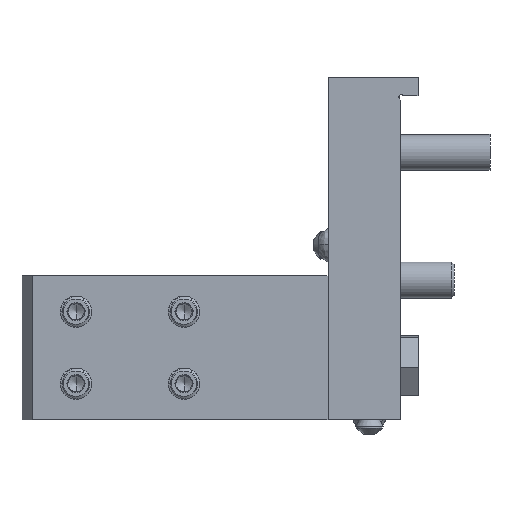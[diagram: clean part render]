
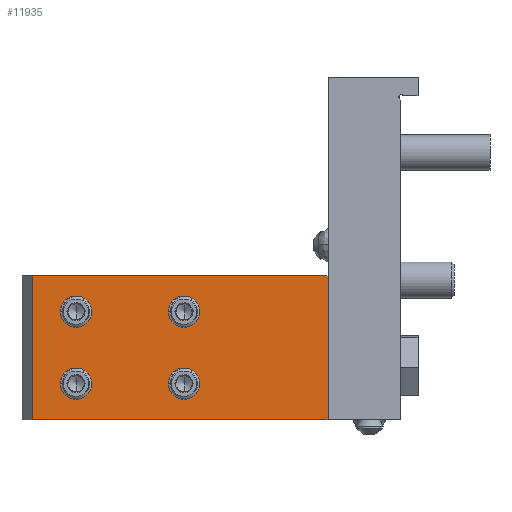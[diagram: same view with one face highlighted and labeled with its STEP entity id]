
A CAD part, left-side view. The second image highlights one B-rep face of the part: STEP entity #11935.
In plain terms, the highlighted planar face has unit normal (1, 0, 0).
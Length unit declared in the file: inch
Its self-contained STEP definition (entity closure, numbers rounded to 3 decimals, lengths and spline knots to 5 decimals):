
#204 = CARTESIAN_POINT ( 'NONE',  ( -1., 0., 1.5 ) ) ;
#288 = FACE_BOUND ( 'NONE', #6733, .T. ) ;
#394 = FACE_OUTER_BOUND ( 'NONE', #5787, .T. ) ;
#461 = CARTESIAN_POINT ( 'NONE',  ( -1., 0., 1.28125 ) ) ;
#559 = DIRECTION ( 'NONE',  ( 0., 0., -1. ) ) ;
#1459 = CIRCLE ( 'NONE', #20564, 0.21875 ) ;
#1542 = ORIENTED_EDGE ( 'NONE', *, *, #21982, .T. ) ;
#1548 = AXIS2_PLACEMENT_3D ( 'NONE', #18318, #7866, #6012 ) ;
#1566 = DIRECTION ( 'NONE',  ( -1., 0., 0. ) ) ;
#1568 = VECTOR ( 'NONE', #16628, 39.37008 ) ;
#1782 = AXIS2_PLACEMENT_3D ( 'NONE', #8065, #2992, #6332 ) ;
#1871 = DIRECTION ( 'NONE',  ( 0., -1., 0. ) ) ;
#2691 = CARTESIAN_POINT ( 'NONE',  ( -1., -1.5, 0.71875 ) ) ;
#2741 = DIRECTION ( 'NONE',  ( -1., 0., 0. ) ) ;
#2837 = DIRECTION ( 'NONE',  ( -1., 0., 0. ) ) ;
#2883 = CARTESIAN_POINT ( 'NONE',  ( -1., -1.5, 0.28125 ) ) ;
#2992 = DIRECTION ( 'NONE',  ( -1., 0., 0. ) ) ;
#3351 = AXIS2_PLACEMENT_3D ( 'NONE', #16578, #5870, #16348 ) ;
#3633 = EDGE_CURVE ( 'NONE', #12113, #8937, #1459, .T. ) ;
#3712 = CARTESIAN_POINT ( 'NONE',  ( -1., 0., 0.5 ) ) ;
#3834 = CIRCLE ( 'NONE', #16676, 0.21875 ) ;
#3911 = ORIENTED_EDGE ( 'NONE', *, *, #9483, .T. ) ;
#3931 = DIRECTION ( 'NONE',  ( 0., 0., -1. ) ) ;
#4222 = EDGE_LOOP ( 'NONE', ( #12595, #16048 ) ) ;
#4335 = AXIS2_PLACEMENT_3D ( 'NONE', #14394, #7282, #14274 ) ;
#5481 = CARTESIAN_POINT ( 'NONE',  ( -1., 1.13792, 0. ) ) ;
#5787 = EDGE_LOOP ( 'NONE', ( #9810, #22112, #10112, #15053 ) ) ;
#5798 = EDGE_CURVE ( 'NONE', #20724, #17785, #13265, .T. ) ;
#5870 = DIRECTION ( 'NONE',  ( -1., 0., 0. ) ) ;
#6012 = DIRECTION ( 'NONE',  ( 0., 0., -1. ) ) ;
#6332 = DIRECTION ( 'NONE',  ( 0., 0., -1. ) ) ;
#6733 = EDGE_LOOP ( 'NONE', ( #16119, #18957 ) ) ;
#7042 = EDGE_LOOP ( 'NONE', ( #8919, #14745 ) ) ;
#7067 = AXIS2_PLACEMENT_3D ( 'NONE', #204, #1566, #19486 ) ;
#7115 = VECTOR ( 'NONE', #1871, 39.37008 ) ;
#7282 = DIRECTION ( 'NONE',  ( 1., 0., 0. ) ) ;
#7385 = LINE ( 'NONE', #14264, #7115 ) ;
#7394 = FACE_BOUND ( 'NONE', #19336, .T. ) ;
#7474 = AXIS2_PLACEMENT_3D ( 'NONE', #7830, #14941, #14710 ) ;
#7539 = EDGE_CURVE ( 'NONE', #15731, #19118, #9227, .T. ) ;
#7664 = CARTESIAN_POINT ( 'NONE',  ( -1., -3.5, 4.75 ) ) ;
#7830 = CARTESIAN_POINT ( 'NONE',  ( -1., -1.5, 0.5 ) ) ;
#7866 = DIRECTION ( 'NONE',  ( -1., 0., 0. ) ) ;
#8065 = CARTESIAN_POINT ( 'NONE',  ( -1., 0., 0.5 ) ) ;
#8510 = CARTESIAN_POINT ( 'NONE',  ( -1., -1.5, 1.28125 ) ) ;
#8919 = ORIENTED_EDGE ( 'NONE', *, *, #5798, .T. ) ;
#8937 = VERTEX_POINT ( 'NONE', #9069 ) ;
#9069 = CARTESIAN_POINT ( 'NONE',  ( -1., -1.5, 1.71875 ) ) ;
#9227 = CIRCLE ( 'NONE', #22060, 0.21875 ) ;
#9446 = PLANE ( 'NONE',  #4335 ) ;
#9483 = EDGE_CURVE ( 'NONE', #15428, #15133, #3834, .T. ) ;
#9698 = VERTEX_POINT ( 'NONE', #11340 ) ;
#9810 = ORIENTED_EDGE ( 'NONE', *, *, #20843, .F. ) ;
#10112 = ORIENTED_EDGE ( 'NONE', *, *, #22461, .T. ) ;
#10192 = CARTESIAN_POINT ( 'NONE',  ( -1., 0., 0.28125 ) ) ;
#10683 = DIRECTION ( 'NONE',  ( 0., -1., 0. ) ) ;
#10782 = CIRCLE ( 'NONE', #7474, 0.21875 ) ;
#11028 = VERTEX_POINT ( 'NONE', #14160 ) ;
#11178 = FACE_BOUND ( 'NONE', #7042, .T. ) ;
#11340 = CARTESIAN_POINT ( 'NONE',  ( -1., -3.5, 2. ) ) ;
#11665 = EDGE_CURVE ( 'NONE', #17785, #20724, #16214, .T. ) ;
#11710 = DIRECTION ( 'NONE',  ( 0., 0., -1. ) ) ;
#11935 = ADVANCED_FACE ( 'NONE', ( #394, #12685, #7394, #288, #11178 ), #9446, .T. ) ;
#12012 = EDGE_CURVE ( 'NONE', #19118, #15731, #20493, .T. ) ;
#12113 = VERTEX_POINT ( 'NONE', #8510 ) ;
#12216 = CIRCLE ( 'NONE', #1548, 0.21875 ) ;
#12300 = LINE ( 'NONE', #5481, #17319 ) ;
#12557 = CARTESIAN_POINT ( 'NONE',  ( -1., 0.60894, 0. ) ) ;
#12595 = ORIENTED_EDGE ( 'NONE', *, *, #3633, .T. ) ;
#12685 = FACE_BOUND ( 'NONE', #4222, .T. ) ;
#13265 = CIRCLE ( 'NONE', #3351, 0.21875 ) ;
#13551 = DIRECTION ( 'NONE',  ( 0., 0., -1. ) ) ;
#14160 = CARTESIAN_POINT ( 'NONE',  ( -1., -3.5, 0. ) ) ;
#14264 = CARTESIAN_POINT ( 'NONE',  ( -1., 0.60894, 2. ) ) ;
#14274 = DIRECTION ( 'NONE',  ( 0., 1., 0. ) ) ;
#14394 = CARTESIAN_POINT ( 'NONE',  ( -1., 0.60894, 4.75 ) ) ;
#14710 = DIRECTION ( 'NONE',  ( 0., 0., -1. ) ) ;
#14745 = ORIENTED_EDGE ( 'NONE', *, *, #11665, .T. ) ;
#14941 = DIRECTION ( 'NONE',  ( -1., 0., 0. ) ) ;
#15053 = ORIENTED_EDGE ( 'NONE', *, *, #20590, .F. ) ;
#15057 = EDGE_CURVE ( 'NONE', #8937, #12113, #12216, .T. ) ;
#15133 = VERTEX_POINT ( 'NONE', #2691 ) ;
#15349 = CARTESIAN_POINT ( 'NONE',  ( -1., 0.60894, 4.75 ) ) ;
#15428 = VERTEX_POINT ( 'NONE', #2883 ) ;
#15660 = VERTEX_POINT ( 'NONE', #12557 ) ;
#15688 = CARTESIAN_POINT ( 'NONE',  ( -1., 0., 1.71875 ) ) ;
#15731 = VERTEX_POINT ( 'NONE', #10192 ) ;
#16048 = ORIENTED_EDGE ( 'NONE', *, *, #15057, .T. ) ;
#16119 = ORIENTED_EDGE ( 'NONE', *, *, #7539, .T. ) ;
#16214 = CIRCLE ( 'NONE', #7067, 0.21875 ) ;
#16348 = DIRECTION ( 'NONE',  ( 0., 0., -1. ) ) ;
#16578 = CARTESIAN_POINT ( 'NONE',  ( -1., 0., 1.5 ) ) ;
#16628 = DIRECTION ( 'NONE',  ( 0., 0., -1. ) ) ;
#16676 = AXIS2_PLACEMENT_3D ( 'NONE', #21926, #2741, #13551 ) ;
#17319 = VECTOR ( 'NONE', #10683, 39.37008 ) ;
#17729 = DIRECTION ( 'NONE',  ( -1., 0., 0. ) ) ;
#17785 = VERTEX_POINT ( 'NONE', #15688 ) ;
#17791 = CARTESIAN_POINT ( 'NONE',  ( -1., 0.60894, 2. ) ) ;
#18318 = CARTESIAN_POINT ( 'NONE',  ( -1., -1.5, 1.5 ) ) ;
#18957 = ORIENTED_EDGE ( 'NONE', *, *, #12012, .T. ) ;
#19118 = VERTEX_POINT ( 'NONE', #22293 ) ;
#19222 = VECTOR ( 'NONE', #559, 39.37008 ) ;
#19336 = EDGE_LOOP ( 'NONE', ( #3911, #1542 ) ) ;
#19486 = DIRECTION ( 'NONE',  ( 0., 0., -1. ) ) ;
#19603 = VERTEX_POINT ( 'NONE', #17791 ) ;
#20493 = CIRCLE ( 'NONE', #1782, 0.21875 ) ;
#20548 = CARTESIAN_POINT ( 'NONE',  ( -1., -1.5, 1.5 ) ) ;
#20564 = AXIS2_PLACEMENT_3D ( 'NONE', #20548, #2837, #11710 ) ;
#20590 = EDGE_CURVE ( 'NONE', #15660, #11028, #12300, .T. ) ;
#20724 = VERTEX_POINT ( 'NONE', #461 ) ;
#20843 = EDGE_CURVE ( 'NONE', #19603, #15660, #22347, .T. ) ;
#21898 = LINE ( 'NONE', #7664, #19222 ) ;
#21904 = EDGE_CURVE ( 'NONE', #19603, #9698, #7385, .T. ) ;
#21926 = CARTESIAN_POINT ( 'NONE',  ( -1., -1.5, 0.5 ) ) ;
#21982 = EDGE_CURVE ( 'NONE', #15133, #15428, #10782, .T. ) ;
#22060 = AXIS2_PLACEMENT_3D ( 'NONE', #3712, #17729, #3931 ) ;
#22112 = ORIENTED_EDGE ( 'NONE', *, *, #21904, .T. ) ;
#22293 = CARTESIAN_POINT ( 'NONE',  ( -1., 0., 0.71875 ) ) ;
#22347 = LINE ( 'NONE', #15349, #1568 ) ;
#22461 = EDGE_CURVE ( 'NONE', #9698, #11028, #21898, .T. ) ;
